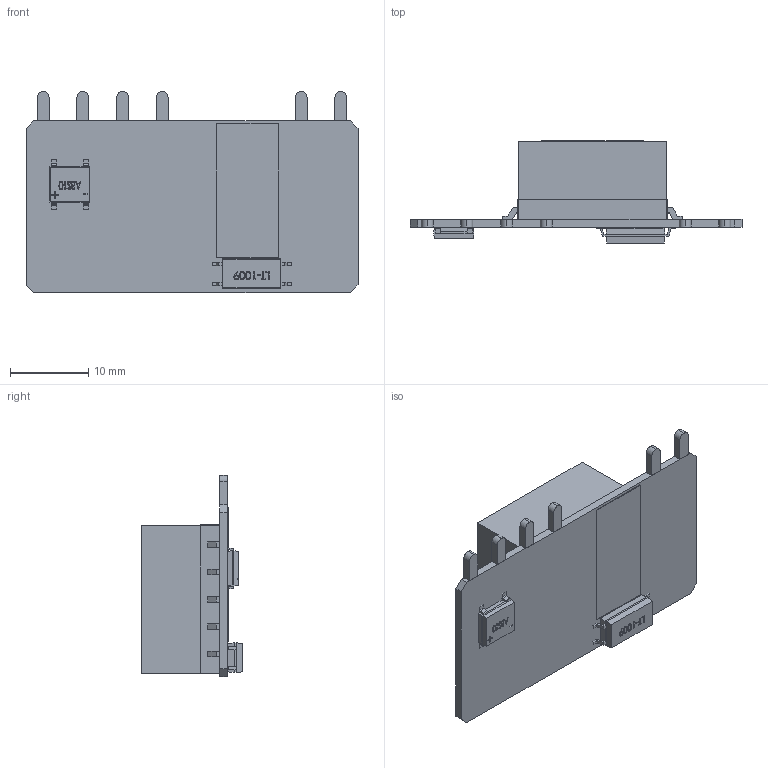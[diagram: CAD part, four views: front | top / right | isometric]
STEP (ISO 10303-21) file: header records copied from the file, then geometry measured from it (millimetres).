
FILE_DESCRIPTION (( 'STEP AP214' ), '1' );
FILE_NAME ('PSO15-X-C.STEP', '2026-01-30T08:42:51', ( '' ), ( '' ), 'SwSTEP 2.0', 'SolidWorks 2012', '' );
FILE_SCHEMA (( 'AUTOMOTIVE_DESIGN' ));
Length unit declared in the file: millimetre
Products named in the file (5): ABS10; S80-43015-001; S70-04900-00200_SOP-4_LTV-1009; PSO15-X-C; -100-63015-00200
Assembly tree (4 placements, depth 2):
  PSO15-X-C
    -100-63015-00200
    S80-43015-001
    ABS10
    S70-04900-00200_SOP-4_LTV-1009
Bounding box: 42.5 x 13.05 x 25.75 mm (x, y, z)
Volume: 4708.3 mm3; surface area: 4984.4 mm2
Topology: 21 solids, 21 shells, 452 faces, 1119 edges, 738 vertices
Faces by surface type: plane 364, bspline 60, cylinder 28
Entity records: 18044 total; most frequent: CARTESIAN_POINT 6488, ORIENTED_EDGE 2238, DIRECTION 1853, EDGE_CURVE 1119, VECTOR 943, LINE 943, VERTEX_POINT 738, EDGE_LOOP 481
